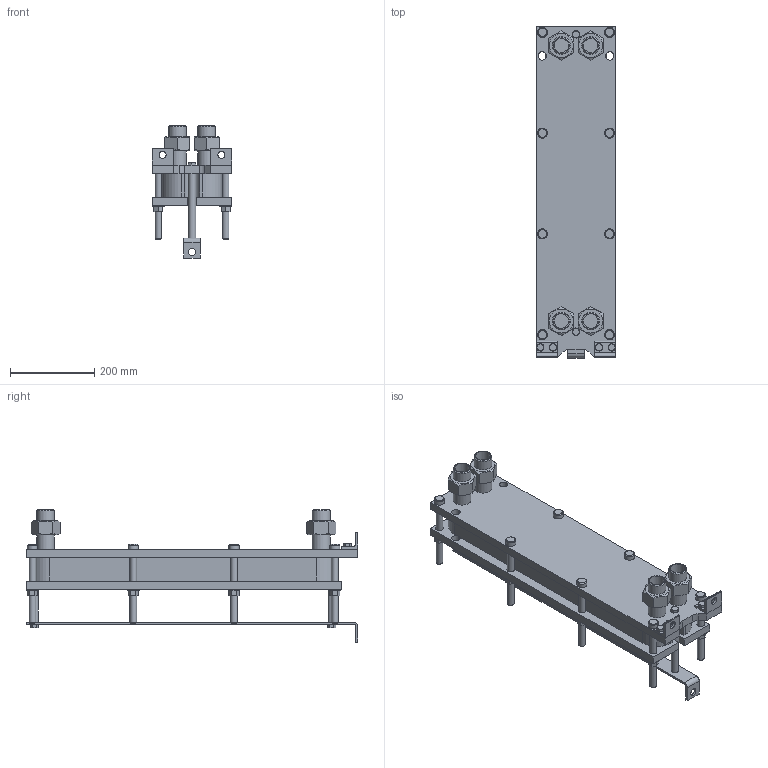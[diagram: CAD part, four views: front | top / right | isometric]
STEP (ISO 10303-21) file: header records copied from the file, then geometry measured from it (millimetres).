
FILE_DESCRIPTION(/* description */ (''),/* implementation_level */ '2;1');
FILE_NAME(/* name */ 'C:\Users\zhuro\Desktop\ENCO\TO\ЭН-008\ЭН-0,5-008-18-1.stp',/* time_stamp */ '2022-06-06T10:46:18+03:00',/* author */ ('zhuro'),/* organization */ (''),/* preprocessor_version */ 'ST-DEVELOPER v18.1',/* originating_system */ 'Autodesk Inventor 2022',/* authorisation */ '');
FILE_SCHEMA (('AUTOMOTIVE_DESIGN { 1 0 10303 214 3 1 1 }'));
Length unit declared in the file: millimetre
Products named in the file (1): ЭН-0,5-008-18-1
Bounding box: 190 x 790 x 315.4 mm (x, y, z)
Volume: 12313402.9 mm3; surface area: 1327900.7 mm2
Topology: 40 solids, 40 shells, 428 faces, 924 edges, 606 vertices
Faces by surface type: plane 273, cylinder 109, cone 40, torus 6
Full cylindrical faces by diameter (mm): 12 x6, 14 x2, 16 x20, 17 x8, 18 x19, 20 x5, 24 x8, 28 x8, 34.3 x8, 42.3 x8
Entity records: 15843 total; most frequent: CARTESIAN_POINT 5991, DIRECTION 1984, ORIENTED_EDGE 1848, EDGE_CURVE 924, AXIS2_PLACEMENT_3D 715, VERTEX_POINT 606, LINE 554, VECTOR 554
